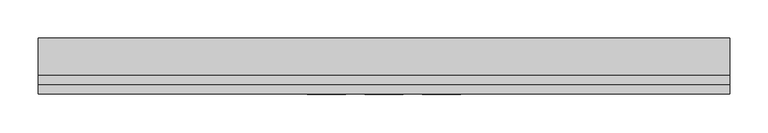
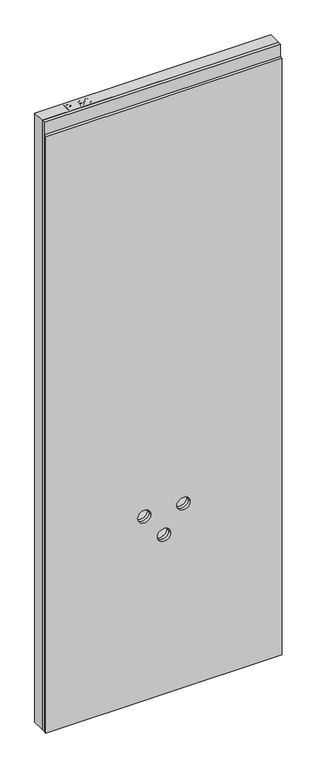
"""IFC4 building model written with IfcOpenShell, lengths in millimetres: proxy geometry, ParedeLavatório_Blufab : Parede Lavatório - Largura 90 cm."""

from ifc_helpers import new_model, si_unit, point, frame, frame_2d, origin, origin_with_axes, place, context, project, spatial, polyline, circle_curve, trimmed, segment, composite_curve, outline, extrude, source, transform, mapped, element, save


def generic_models_1e0aeaca(model_context):
    return source(origin(), model_context, "Body", "SweptSolid", [
        extrude(outline(polyline([(2450.0, 900.0), (2450.0, 0.0), (0.0, 0.0), (0.0, 900.0), (2450.0, 900.0)]), holes=[composite_curve([segment(trimmed(circle_curve(frame_2d((640.0, 450.0)), 25.0), [point((640.0, 475.0))], [point((640.0, 425.0))], True, "CARTESIAN"), True, "CONTINUOUS"), segment(trimmed(circle_curve(frame_2d((640.0, 450.0)), 25.0), [point((640.0, 425.0))], [point((640.0, 475.0))], True, "CARTESIAN"), True, "CONTINUOUS")], self_intersect=False), composite_curve([segment(trimmed(circle_curve(frame_2d((740.0, 525.0)), 25.0), [point((740.0, 550.0))], [point((740.0, 500.0))], True, "CARTESIAN"), True, "CONTINUOUS"), segment(trimmed(circle_curve(frame_2d((740.0, 525.0)), 25.0), [point((740.0, 500.0))], [point((740.0, 550.0))], True, "CARTESIAN"), True, "CONTINUOUS")], self_intersect=False), composite_curve([segment(trimmed(circle_curve(frame_2d((740.0, 375.0)), 25.0), [point((740.0, 400.0))], [point((740.0, 350.0))], True, "CARTESIAN"), True, "CONTINUOUS"), segment(trimmed(circle_curve(frame_2d((740.0, 375.0)), 25.0), [point((740.0, 350.0))], [point((740.0, 400.0))], True, "CARTESIAN"), True, "CONTINUOUS")], self_intersect=False)]), frame((0.0, 25.0126803, 0.0), z_axis=(0.0, 1.0, 0.0), x_axis=(0.0, 0.0, 1.0)), (0.0, 0.0, 1.0), 47.9873197),
        extrude(outline(polyline([(2450.0, 900.0), (2450.0, 0.0), (0.0, 0.0), (0.0, 900.0), (2450.0, 900.0)]), holes=[composite_curve([segment(trimmed(circle_curve(frame_2d((640.0, 450.0)), 25.0), [point((640.0, 475.0))], [point((640.0, 425.0))], True, "CARTESIAN"), True, "CONTINUOUS"), segment(trimmed(circle_curve(frame_2d((640.0, 450.0)), 25.0), [point((640.0, 425.0))], [point((640.0, 475.0))], True, "CARTESIAN"), True, "CONTINUOUS")], self_intersect=False), composite_curve([segment(trimmed(circle_curve(frame_2d((740.0, 525.0)), 25.0), [point((740.0, 550.0))], [point((740.0, 500.0))], True, "CARTESIAN"), True, "CONTINUOUS"), segment(trimmed(circle_curve(frame_2d((740.0, 525.0)), 25.0), [point((740.0, 500.0))], [point((740.0, 550.0))], True, "CARTESIAN"), True, "CONTINUOUS")], self_intersect=False), composite_curve([segment(trimmed(circle_curve(frame_2d((740.0, 375.0)), 25.0), [point((740.0, 400.0))], [point((740.0, 350.0))], True, "CARTESIAN"), True, "CONTINUOUS"), segment(trimmed(circle_curve(frame_2d((740.0, 375.0)), 25.0), [point((740.0, 350.0))], [point((740.0, 400.0))], True, "CARTESIAN"), True, "CONTINUOUS")], self_intersect=False)]), frame((0.0, 12.5126803, 0.0), z_axis=(0.0, 1.0, 0.0), x_axis=(0.0, 0.0, 1.0)), (0.0, 0.0, 1.0), 12.5),
        extrude(outline(polyline([(2400.0, 900.0), (2400.0, 0.0), (0.0, 0.0), (0.0, 900.0), (2400.0, 900.0)]), holes=[composite_curve([segment(trimmed(circle_curve(frame_2d((640.0, 450.0)), 25.0), [point((640.0, 475.0))], [point((640.0, 425.0))], True, "CARTESIAN"), True, "CONTINUOUS"), segment(trimmed(circle_curve(frame_2d((640.0, 450.0)), 25.0), [point((640.0, 425.0))], [point((640.0, 475.0))], True, "CARTESIAN"), True, "CONTINUOUS")], self_intersect=False), composite_curve([segment(trimmed(circle_curve(frame_2d((740.0, 525.0)), 25.0), [point((740.0, 550.0))], [point((740.0, 500.0))], True, "CARTESIAN"), True, "CONTINUOUS"), segment(trimmed(circle_curve(frame_2d((740.0, 525.0)), 25.0), [point((740.0, 500.0))], [point((740.0, 550.0))], True, "CARTESIAN"), True, "CONTINUOUS")], self_intersect=False), composite_curve([segment(trimmed(circle_curve(frame_2d((740.0, 375.0)), 25.0), [point((740.0, 400.0))], [point((740.0, 350.0))], True, "CARTESIAN"), True, "CONTINUOUS"), segment(trimmed(circle_curve(frame_2d((740.0, 375.0)), 25.0), [point((740.0, 350.0))], [point((740.0, 400.0))], True, "CARTESIAN"), True, "CONTINUOUS")], self_intersect=False)]), frame((0.0, 0.0, 0.0), z_axis=(0.0, 1.0, 0.0), x_axis=(0.0, 0.0, 1.0)), (0.0, 0.0, 1.0), 12.5),
        extrude(outline(polyline([(104.7946604, 34.0997617), (104.7946604, 64.2366547), (115.9635578, 64.2366547), (120.4664334, 63.9497068), (124.1268593, 62.5407187), (126.4996981, 59.6270933), (127.3973302, 55.5178514), (124.9729879, 49.0063401), (116.2210752, 46.3428745), (108.5617721, 46.3428745), (108.5617721, 34.0997617), (104.7946604, 34.0997617)]), holes=[polyline([(108.5617721, 50.1099861), (116.4418044, 50.1099861), (121.9894649, 51.4932224), (123.6302186, 55.3854139), (122.6626889, 58.5050532), (120.1206244, 60.2120257), (116.3535127, 60.4695431), (108.5617721, 60.4695431), (108.5617721, 50.1099861)])]), origin_with_axes(), (0.0, 0.0, 1.0), 2450.0),
        extrude(outline(polyline([(132.5771087, 34.0997617), (132.5771087, 64.2366547), (136.3442203, 64.2366547), (136.3442203, 37.8668733), (151.4126669, 37.8668733), (151.4126669, 34.0997617), (132.5771087, 34.0997617)])), origin_with_axes(), (0.0, 0.0, 1.0), 2450.0),
        extrude(outline(polyline([(154.7088895, 41.6339849), (158.4760012, 42.1048739), (160.1682583, 38.5106668), (163.3761893, 37.3959844), (166.4259311, 38.1133543), (168.4934279, 40.0300194), (169.7258326, 43.3041692), (170.2702979, 47.6746073), (167.2352715, 45.555607), (163.1039567, 44.4593187), (156.8094957, 47.1374996), (154.2380006, 54.1934763), (156.9345756, 61.4775398), (163.6925679, 64.2366547), (169.0599662, 62.6621198), (172.7535014, 58.1739594), (174.0153366, 49.7421041), (172.7571802, 40.5928789), (169.0158203, 35.4094216), (163.199606, 33.6288727), (157.4091434, 35.7294789), (154.7088895, 41.6339849)]), holes=[polyline([(170.248225, 54.2817679), (168.6221866, 58.7993588), (164.303252, 60.4695431), (159.7709458, 58.6706001), (158.0051122, 54.0095353), (159.6752965, 49.8340746), (164.200245, 48.2264303), (168.5449314, 49.8340746), (170.248225, 54.2817679)])]), origin_with_axes(), (0.0, 0.0, 1.0), 2450.0),
        extrude(outline(polyline([(177.3115593, 48.9254061), (178.4188841, 57.5963847), (181.7077492, 62.595901), (187.2002274, 64.2366547), (191.600096, 63.2654463), (194.6388013, 60.4658643), (196.4046349, 56.0071345), (197.0888954, 48.9254061), (195.992607, 40.2912157), (192.7147785, 35.2806629), (187.2002274, 33.6288727), (180.3134764, 36.4983523), (177.3115593, 48.9254061)]), holes=[polyline([(181.078671, 48.9327637), (182.8445045, 39.5775246), (187.2002274, 37.3959844), (191.5559502, 39.5848822), (193.3217838, 48.9327637), (191.6148113, 58.1813171), (187.1560815, 60.4695431), (182.9033656, 58.4535498), (181.078671, 48.9327637)])]), origin_with_axes(), (0.0, 0.0, 1.0), 2450.0),
    ])


if __name__ == "__main__":
    model = new_model("IFC4")
    model_context = context("Model", 3, world=origin())
    ifc_project = project(units=[si_unit("LENGTHUNIT", "METRE", prefix="MILLI")], contexts=[model_context])
    site = spatial("IfcSite", under=ifc_project)
    building = spatial("IfcBuilding", under=site)
    placement = place(None, origin())
    generic_models_shape = generic_models_1e0aeaca(model_context)
    element("IfcBuildingElementProxy", 1, Name="ParedeLavatório_Blufab : Parede Lavatório - Largura 90 cm", ObjectType="ParedeLavatório_Blufab : Parede Lavatório - Largura 90 cm", at=placement, inside=building, context=model_context, shape_type="MappedRepresentation", body=[
        mapped(generic_models_shape, transform((0.0, 0.0, 0.0), x_axis=(1.0, 0.0, 0.0), y_axis=(0.0, 1.0, 0.0), z_axis=(0.0, 0.0, 1.0))),
    ])
    save(model, "model.ifc")
